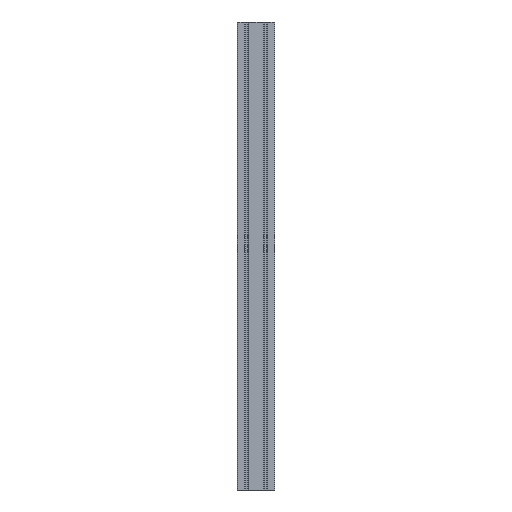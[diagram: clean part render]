
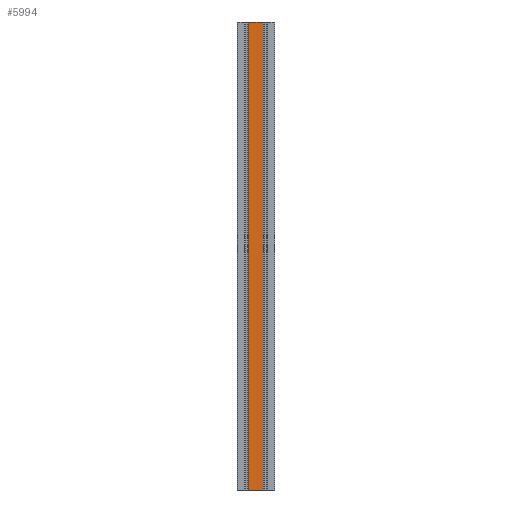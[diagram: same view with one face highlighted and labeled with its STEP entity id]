
A CAD part, front view. The second image highlights one B-rep face of the part: STEP entity #5994.
In plain terms, the highlighted planar face has unit normal (0, -1, 0).
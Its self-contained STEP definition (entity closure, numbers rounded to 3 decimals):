
#5936=CARTESIAN_POINT('',(285.35,150.,1000.0));
#5937=VERTEX_POINT('',#5936);
#5945=CARTESIAN_POINT('',(285.35,150.,0.0));
#5946=VERTEX_POINT('',#5945);
#5947=CARTESIAN_POINT('',(285.35,150.,0.0));
#5948=DIRECTION('',(0.0,0.0,1.0));
#5949=VECTOR('',#5948,1000.0);
#5950=LINE('',#5947,#5949);
#5951=EDGE_CURVE('',#5946,#5937,#5950,.T.);
#5964=CARTESIAN_POINT('',(285.35,150.,0.0));
#5965=DIRECTION('',(0.0,-1.0,0.0));
#5966=DIRECTION('',(0.0,0.0,-1.0));
#5967=AXIS2_PLACEMENT_3D('',#5964,#5965,#5966);
#5968=PLANE('',#5967);
#5969=CARTESIAN_POINT('',(254.65,150.,1000.0));
#5970=VERTEX_POINT('',#5969);
#5971=CARTESIAN_POINT('',(285.35,150.,1000.0));
#5972=DIRECTION('',(-1.0,0.0,0.0));
#5973=VECTOR('',#5972,30.7);
#5974=LINE('',#5971,#5973);
#5975=EDGE_CURVE('',#5937,#5970,#5974,.T.);
#5976=ORIENTED_EDGE('',*,*,#5975,.T.);
#5977=CARTESIAN_POINT('',(254.65,150.,0.0));
#5978=VERTEX_POINT('',#5977);
#5979=CARTESIAN_POINT('',(254.65,150.,0.0));
#5980=DIRECTION('',(0.0,0.0,1.0));
#5981=VECTOR('',#5980,1000.0);
#5982=LINE('',#5979,#5981);
#5983=EDGE_CURVE('',#5978,#5970,#5982,.T.);
#5984=ORIENTED_EDGE('',*,*,#5983,.F.);
#5985=CARTESIAN_POINT('',(285.35,150.,0.0));
#5986=DIRECTION('',(-1.0,0.0,0.0));
#5987=VECTOR('',#5986,30.7);
#5988=LINE('',#5985,#5987);
#5989=EDGE_CURVE('',#5946,#5978,#5988,.T.);
#5990=ORIENTED_EDGE('',*,*,#5989,.F.);
#5991=ORIENTED_EDGE('',*,*,#5951,.T.);
#5992=EDGE_LOOP('',(#5976,#5984,#5990,#5991));
#5993=FACE_OUTER_BOUND('',#5992,.T.);
#5994=ADVANCED_FACE('',(#5993),#5968,.T.);
